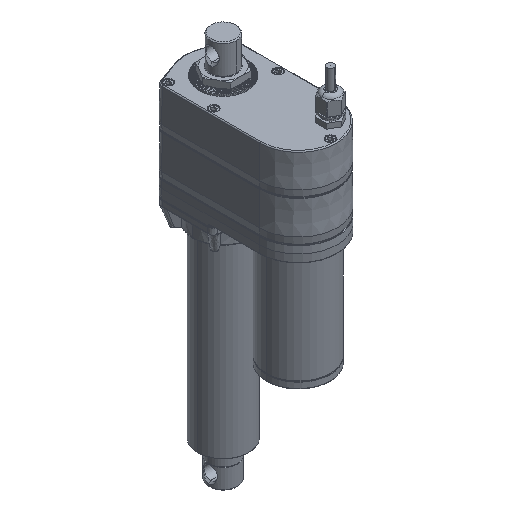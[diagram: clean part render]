
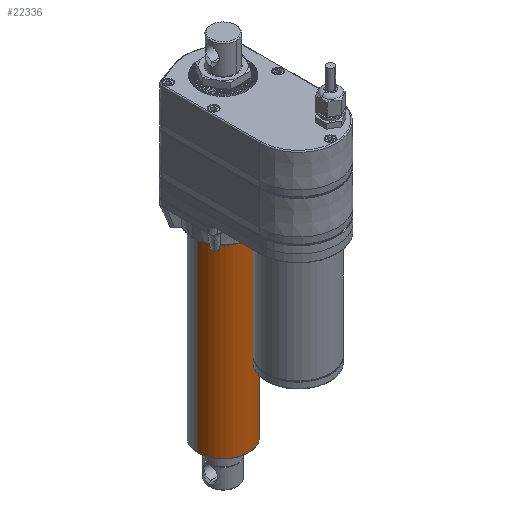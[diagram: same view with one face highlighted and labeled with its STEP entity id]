
A CAD part, isometric view. The second image highlights one B-rep face of the part: STEP entity #22336.
In plain terms, the highlighted cylindrical face has radius 25.4 mm (diameter 50.8 mm), a partial arc.
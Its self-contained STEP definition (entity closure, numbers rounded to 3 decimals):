
#770 = DIRECTION ( 'NONE',  ( 1., 0., 0. ) ) ;
#944 = DIRECTION ( 'NONE',  ( 0., 0., 1. ) ) ;
#3238 = ORIENTED_EDGE ( 'NONE', *, *, #14563, .F. ) ;
#4157 = CIRCLE ( 'NONE', #7243, 25.4 ) ;
#4231 = AXIS2_PLACEMENT_3D ( 'NONE', #24651, #4635, #24351 ) ;
#4436 = AXIS2_PLACEMENT_3D ( 'NONE', #19799, #17068, #31767 ) ;
#4635 = DIRECTION ( 'NONE',  ( 0., 0., 1. ) ) ;
#5087 = FACE_OUTER_BOUND ( 'NONE', #14514, .T. ) ;
#6325 = CARTESIAN_POINT ( 'NONE',  ( 25.4, 0., 0. ) ) ;
#7243 = AXIS2_PLACEMENT_3D ( 'NONE', #22909, #944, #770 ) ;
#7877 = CARTESIAN_POINT ( 'NONE',  ( 25.4, 0., -270.5 ) ) ;
#9303 = LINE ( 'NONE', #21253, #24269 ) ;
#10371 = EDGE_CURVE ( 'NONE', #30308, #15928, #16349, .T. ) ;
#13537 = EDGE_CURVE ( 'NONE', #15048, #30308, #28477, .T. ) ;
#14310 = DIRECTION ( 'NONE',  ( 0., 0., 1. ) ) ;
#14514 = EDGE_LOOP ( 'NONE', ( #3238, #31999, #30039, #29893 ) ) ;
#14563 = EDGE_CURVE ( 'NONE', #15048, #29931, #9303, .T. ) ;
#15048 = VERTEX_POINT ( 'NONE', #28416 ) ;
#15928 = VERTEX_POINT ( 'NONE', #21375 ) ;
#16349 = LINE ( 'NONE', #6325, #18464 ) ;
#17068 = DIRECTION ( 'NONE',  ( 0., 0., 1. ) ) ;
#18464 = VECTOR ( 'NONE', #18610, 1000. ) ;
#18610 = DIRECTION ( 'NONE',  ( 0., 0., 1. ) ) ;
#19799 = CARTESIAN_POINT ( 'NONE',  ( 0., 0., 0. ) ) ;
#20127 = CYLINDRICAL_SURFACE ( 'NONE', #4436, 25.4 ) ;
#21253 = CARTESIAN_POINT ( 'NONE',  ( -25.4, 0., 0. ) ) ;
#21375 = CARTESIAN_POINT ( 'NONE',  ( 25.4, 0., -83.664 ) ) ;
#22336 = ADVANCED_FACE ( 'NONE', ( #5087 ), #20127, .T. ) ;
#22909 = CARTESIAN_POINT ( 'NONE',  ( 0., 0., -83.664 ) ) ;
#24269 = VECTOR ( 'NONE', #14310, 1000. ) ;
#24351 = DIRECTION ( 'NONE',  ( 1., 0., 0. ) ) ;
#24651 = CARTESIAN_POINT ( 'NONE',  ( 0., 0., -270.5 ) ) ;
#28003 = EDGE_CURVE ( 'NONE', #29931, #15928, #4157, .T. ) ;
#28416 = CARTESIAN_POINT ( 'NONE',  ( -25.4, 0., -270.5 ) ) ;
#28477 = CIRCLE ( 'NONE', #4231, 25.4 ) ;
#29893 = ORIENTED_EDGE ( 'NONE', *, *, #28003, .F. ) ;
#29931 = VERTEX_POINT ( 'NONE', #29954 ) ;
#29954 = CARTESIAN_POINT ( 'NONE',  ( -25.4, 0., -83.664 ) ) ;
#30039 = ORIENTED_EDGE ( 'NONE', *, *, #10371, .T. ) ;
#30308 = VERTEX_POINT ( 'NONE', #7877 ) ;
#31767 = DIRECTION ( 'NONE',  ( 1., 0., 0. ) ) ;
#31999 = ORIENTED_EDGE ( 'NONE', *, *, #13537, .T. ) ;
